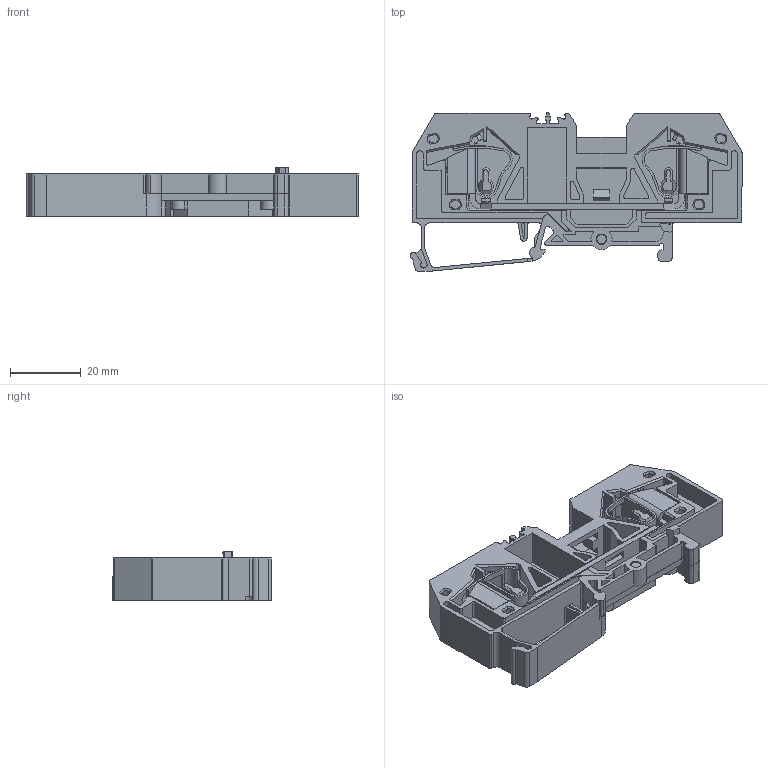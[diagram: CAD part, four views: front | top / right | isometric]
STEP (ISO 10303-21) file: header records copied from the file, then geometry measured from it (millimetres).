
FILE_DESCRIPTION (( 'STEP AP203' ), '1' );
FILE_NAME ('ﾊﾏﾐ1-16ﾂ-2ﾂ.STEP', '2019-03-04T11:30:20', ( '' ), ( '' ), 'SwSTEP 2.0', 'SolidWorks 2016', '' );
FILE_SCHEMA (( 'CONFIG_CONTROL_DESIGN' ));
Length unit declared in the file: millimetre
Products named in the file (1): ﾊﾏﾐ1-16ﾂ-2ﾂ
Bounding box: 94.05 x 44.9 x 13.8 mm (x, y, z)
Volume: 18409.5 mm3; surface area: 25516.7 mm2
Topology: 5 solids, 5 shells, 775 faces, 2136 edges, 1396 vertices
Faces by surface type: plane 503, cylinder 223, cone 49
Full cylindrical faces by diameter (mm): 1.3 x1, 1.5 x2, 1.6 x1, 1.8 x1, 1.9 x1, 2 x2, 2.4 x1, 2.5 x1, 2.55 x1, 2.65 x1, 2.7 x2, 2.95 x2, 3.1 x1, 3.2 x1, 3.4 x2, 9.5 x2
Entity records: 24448 total; most frequent: CARTESIAN_POINT 4709, ORIENTED_EDGE 4160, DIRECTION 3970, EDGE_CURVE 2080, VECTOR 1490, LINE 1490, VERTEX_POINT 1386, AXIS2_PLACEMENT_3D 1240
